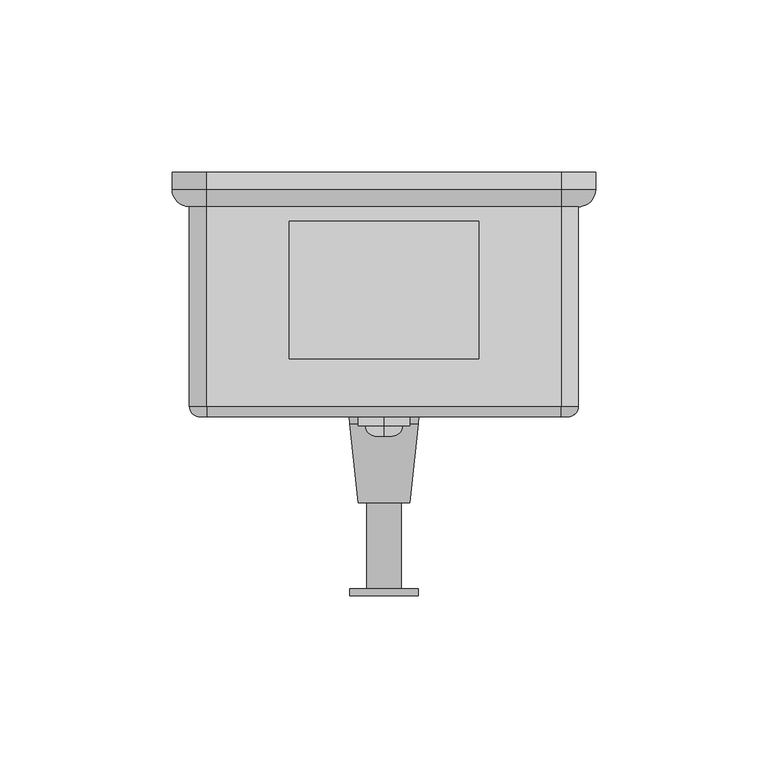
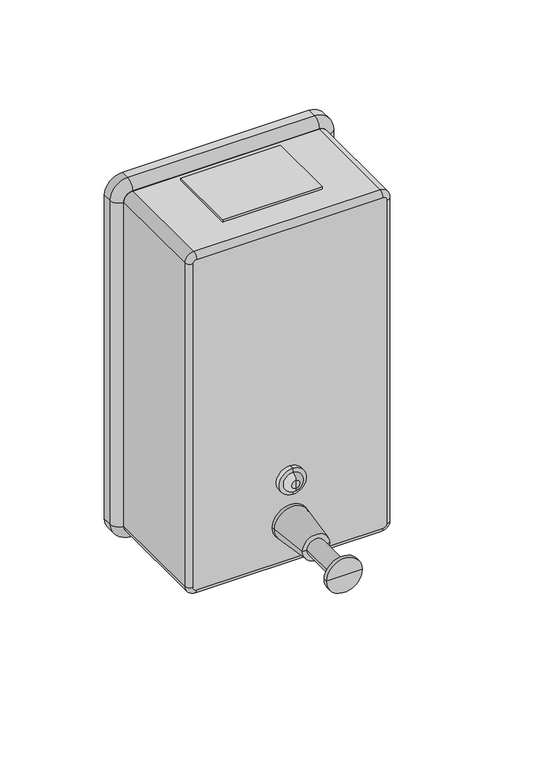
"""IFC4 building model written with IfcOpenShell, lengths in millimetres: proxy geometry, Soap Dispenser_Metlam_Rectangular_Vertical_Pump : 123w x 123d x 209h (ML605AS_N)."""

from ifc_helpers import new_model, si_unit, point, frame, frame_2d, origin, place, context, project, spatial, polyline, circle_curve, ellipse_curve, trimmed, segment, composite_curve, outline, extrude, source, transform, mapped, element, save
from ifc_brep_helpers import plane_surface, cylinder_surface, revolved_surface, advanced_brep


def specialty_equipment_077ba308(model_context):
    return source(origin(), model_context, "Body", "SolidModel", [
        advanced_brep(
        [(0.0, -73.6793404, 1349.641687), (0.0, -73.6793404, 1360.358313), (0.0, -73.6793404, 1362.5184821), (0.0, -73.6793404, 1347.4815179), (0.0, -76.6166446, 1352.5753466), (0.0, -76.6166446, 1357.4246534), (0.0, -76.6166446, 1355.0), (0.0, -71.0, 1347.4815179), (0.0, -71.0, 1362.5184821), (0.0, -71.0, 1355.0)],
        [
            (0, 1, circle_curve(frame((0.0, -73.6793404, 1355.0), z_axis=(0.0, 1.0, 0.0), x_axis=(0.0, 0.0, 1.0)), 5.358313)),
            (1, 2),
            (2, 3, circle_curve(frame((0.0, -73.6793404, 1355.0), z_axis=(0.0, -1.0, 0.0), x_axis=(0.0, 0.0, 1.0)), 7.5184821)),
            (3, 0),
            (1, 0, circle_curve(frame((0.0, -73.6793404, 1355.0), z_axis=(0.0, 1.0, 0.0), x_axis=(0.0, 0.0, 1.0)), 5.358313)),
            (3, 2, circle_curve(frame((0.0, -73.6793404, 1355.0), z_axis=(0.0, -1.0, 0.0), x_axis=(0.0, 0.0, 1.0)), 7.5184821)),
            (4, 5, circle_curve(frame((0.0, -76.6166446, 1355.0), z_axis=(0.0, 1.0, 0.0), x_axis=(0.0, 0.0, 1.0)), 2.4246534)),
            (5, 1, circle_curve(frame((0.0, -73.6829827, 1357.4246534), z_axis=(-1.0, 0.0, 0.0), x_axis=(0.0, 1.0, 0.0)), 2.9336619)),
            (0, 4, circle_curve(frame((0.0, -73.6829827, 1352.5753466), z_axis=(-1.0, 0.0, 0.0), x_axis=(0.0, 1.0, 0.0)), 2.9336619)),
            (5, 4, circle_curve(frame((0.0, -76.6166446, 1355.0), z_axis=(0.0, 1.0, 0.0), x_axis=(0.0, 0.0, 1.0)), 2.4246534)),
            (6, 5),
            (4, 6),
            (7, 8, circle_curve(frame((0.0, -71.0, 1355.0), z_axis=(0.0, 1.0, 0.0), x_axis=(0.0, 0.0, 1.0)), 7.5184821)),
            (8, 9),
            (9, 7),
            (8, 7, circle_curve(frame((0.0, -71.0, 1355.0), z_axis=(0.0, 1.0, 0.0), x_axis=(0.0, 0.0, 1.0)), 7.5184821)),
            (2, 8),
            (7, 3),
        ],
        [
            plane_surface(frame((0.0, -73.6793404, 1355.0), z_axis=(0.0, -1.0, 0.0), x_axis=(0.0, 0.0, 1.0))),
            revolved_surface(trimmed(ellipse_curve(frame((0.0, -73.6829827, 1357.4246534), z_axis=(1.0, 0.0, 0.0), x_axis=(0.0, 1.0, 0.0)), 2.9336619, 2.9336619), [point((0.0, -73.6793404, 1360.358313))], [point((0.0, -76.6166446, 1357.4246534))], True, "CARTESIAN"), (0.0, -61.3992476, 1355.0), (0.0, -1.0, 0.0)),
            plane_surface(frame((0.0, -76.6166446, 1355.0), z_axis=(0.0, -1.0, 0.0), x_axis=(0.0, 0.0, 1.0))),
            plane_surface(frame((0.0, -71.0, 1355.0), z_axis=(0.0, 1.0, 0.0), x_axis=(0.0, 0.0, 1.0))),
            cylinder_surface(frame((0.0, -61.3992476, 1355.0), z_axis=(0.0, -1.0, 0.0), x_axis=(0.0, 0.0, 1.0)), 7.5184821),
        ],
        [
            (0, [[1, 2, 3, 4]]),
            (0, [[5, -4, 6, -2]]),
            (1, [[7, 8, -1, 9]]),
            (1, [[10, -9, -5, -8]]),
            (2, [[11, -7, 12]]),
            (2, [[-12, -10, -11]]),
            (3, [[13, 14, 15]]),
            (3, [[16, -15, -14]]),
            (4, [[-3, 17, -13, 18]]),
            (4, [[-6, -18, -16, -17]]),
        ],
    ),
        advanced_brep(
        [(53.5, -71.0, 1499.0), (51.5, -71.0, 1501.0), (-51.5, -71.0, 1501.0), (-53.5, -71.0, 1499.0), (-53.5, -71.0, 1310.0), (-51.5, -71.0, 1308.0), (51.5, -71.0, 1308.0), (53.5, -71.0, 1310.0), (51.5, -61.0, 1501.0), (53.5, -61.0, 1499.0), (53.5, -61.0, 1310.0), (51.5, -61.0, 1308.0), (-51.5, -61.0, 1308.0), (-53.5, -61.0, 1310.0), (-53.5, -61.0, 1499.0), (-51.5, -61.0, 1501.0), (56.5, -10.0, 1499.0), (56.5, -68.0, 1499.0), (56.5, -68.0, 1310.0), (56.5, -10.0, 1310.0), (51.5, -10.0, 1305.0), (51.5, -68.0, 1305.0), (-51.5, -68.0, 1305.0), (-51.5, -10.0, 1305.0), (-56.5, -10.0, 1310.0), (-56.5, -68.0, 1310.0), (-56.5, -68.0, 1499.0), (-56.5, -10.0, 1499.0), (-51.5, -10.0, 1504.0), (-51.5, -68.0, 1504.0), (51.5, -68.0, 1504.0), (51.5, -10.0, 1504.0), (-51.5, -10.0, 1501.0), (-53.5, -10.0, 1499.0), (-53.5, -10.0, 1310.0), (-51.5, -10.0, 1308.0), (51.5, -10.0, 1308.0), (53.5, -10.0, 1310.0), (53.5, -10.0, 1499.0), (51.5, -10.0, 1501.0)],
        [
            (0, 1, circle_curve(frame((51.5, -71.0, 1499.0), z_axis=(0.0, -1.0, 0.0), x_axis=(0.0, 0.0, 1.0)), 2.0)),
            (1, 2),
            (2, 3, circle_curve(frame((-51.5, -71.0, 1499.0), z_axis=(0.0, -1.0, 0.0), x_axis=(-1.0, 0.0, 0.0)), 2.0)),
            (3, 4),
            (4, 5, circle_curve(frame((-51.5, -71.0, 1310.0), z_axis=(0.0, -1.0, 0.0), x_axis=(0.0, 0.0, -1.0)), 2.0)),
            (5, 6),
            (6, 7, circle_curve(frame((51.5, -71.0, 1310.0), z_axis=(0.0, -1.0, 0.0), x_axis=(1.0, 0.0, 0.0)), 2.0)),
            (7, 0),
            (8, 9, circle_curve(frame((51.5, -61.0, 1499.0), z_axis=(0.0, 1.0, 0.0), x_axis=(0.0, 0.0, 1.0)), 2.0)),
            (9, 10),
            (10, 11, circle_curve(frame((51.5, -61.0, 1310.0), z_axis=(0.0, 1.0, 0.0), x_axis=(1.0, 0.0, 0.0)), 2.0)),
            (11, 12),
            (12, 13, circle_curve(frame((-51.5, -61.0, 1310.0), z_axis=(0.0, 1.0, 0.0), x_axis=(0.0, 0.0, -1.0)), 2.0)),
            (13, 14),
            (14, 15, circle_curve(frame((-51.5, -61.0, 1499.0), z_axis=(0.0, 1.0, 0.0), x_axis=(-1.0, 0.0, 0.0)), 2.0)),
            (15, 8),
            (16, 17),
            (17, 18),
            (18, 19),
            (19, 16),
            (20, 21),
            (21, 22),
            (22, 23),
            (23, 20),
            (24, 25),
            (25, 26),
            (26, 27),
            (27, 24),
            (28, 29),
            (29, 30),
            (30, 31),
            (31, 28),
            (16, 31, circle_curve(frame((51.5, -10.0, 1499.0), z_axis=(0.0, -1.0, 0.0), x_axis=(0.0, 0.0, 1.0)), 5.0)),
            (30, 17, circle_curve(frame((51.5, -68.0, 1499.0), z_axis=(0.0, 1.0, 0.0), x_axis=(0.0, 0.0, 1.0)), 5.0)),
            (18, 21, circle_curve(frame((51.5, -68.0, 1310.0), z_axis=(0.0, 1.0, 0.0), x_axis=(1.0, 0.0, 0.0)), 5.0)),
            (20, 19, circle_curve(frame((51.5, -10.0, 1310.0), z_axis=(0.0, -1.0, 0.0), x_axis=(1.0, 0.0, 0.0)), 5.0)),
            (22, 25, circle_curve(frame((-51.5, -68.0, 1310.0), z_axis=(0.0, 1.0, 0.0), x_axis=(0.0, 0.0, -1.0)), 5.0)),
            (24, 23, circle_curve(frame((-51.5, -10.0, 1310.0), z_axis=(0.0, -1.0, 0.0), x_axis=(0.0, 0.0, -1.0)), 5.0)),
            (26, 29, circle_curve(frame((-51.5, -68.0, 1499.0), z_axis=(0.0, 1.0, 0.0), x_axis=(-1.0, 0.0, 0.0)), 5.0)),
            (28, 27, circle_curve(frame((-51.5, -10.0, 1499.0), z_axis=(0.0, -1.0, 0.0), x_axis=(-1.0, 0.0, 0.0)), 5.0)),
            (32, 33, circle_curve(frame((-51.5, -10.0, 1499.0), z_axis=(0.0, -1.0, 0.0), x_axis=(-1.0, 0.0, 0.0)), 2.0)),
            (33, 34),
            (34, 35, circle_curve(frame((-51.5, -10.0, 1310.0), z_axis=(0.0, -1.0, 0.0), x_axis=(0.0, 0.0, -1.0)), 2.0)),
            (35, 36),
            (36, 37, circle_curve(frame((51.5, -10.0, 1310.0), z_axis=(0.0, -1.0, 0.0), x_axis=(1.0, 0.0, 0.0)), 2.0)),
            (37, 38),
            (38, 39, circle_curve(frame((51.5, -10.0, 1499.0), z_axis=(0.0, -1.0, 0.0), x_axis=(0.0, 0.0, 1.0)), 2.0)),
            (39, 32),
            (38, 9),
            (8, 39),
            (30, 1, circle_curve(frame((51.5, -68.0, 1501.0), z_axis=(1.0, 0.0, 0.0), x_axis=(0.0, 0.0, 1.0)), 3.0)),
            (0, 17, circle_curve(frame((53.5, -68.0, 1499.0), z_axis=(0.0, 0.0, 1.0), x_axis=(1.0, 0.0, 0.0)), 3.0)),
            (37, 10),
            (7, 18, circle_curve(frame((53.5, -68.0, 1310.0), z_axis=(0.0, 0.0, 1.0), x_axis=(1.0, 0.0, 0.0)), 3.0)),
            (36, 11),
            (6, 21, circle_curve(frame((51.5, -68.0, 1308.0), z_axis=(1.0, 0.0, 0.0), x_axis=(0.0, 0.0, -1.0)), 3.0)),
            (35, 12),
            (5, 22, circle_curve(frame((-51.5, -68.0, 1308.0), z_axis=(1.0, 0.0, 0.0), x_axis=(0.0, 0.0, -1.0)), 3.0)),
            (34, 13),
            (4, 25, circle_curve(frame((-53.5, -68.0, 1310.0), z_axis=(0.0, 0.0, -1.0), x_axis=(-1.0, 0.0, 0.0)), 3.0)),
            (33, 14),
            (3, 26, circle_curve(frame((-53.5, -68.0, 1499.0), z_axis=(0.0, 0.0, -1.0), x_axis=(-1.0, 0.0, 0.0)), 3.0)),
            (32, 15),
            (2, 29, circle_curve(frame((-51.5, -68.0, 1501.0), z_axis=(-1.0, 0.0, 0.0), x_axis=(0.0, 0.0, 1.0)), 3.0)),
        ],
        [
            plane_surface(frame((-49.5, -71.0, 1499.0), z_axis=(0.0, -1.0, 0.0), x_axis=(0.0, 0.0, 1.0))),
            plane_surface(frame((-49.5, -61.0, 1499.0), z_axis=(0.0, 1.0, 0.0), x_axis=(0.0, 0.0, -1.0))),
            plane_surface(frame((56.5, -68.0, 1499.0), z_axis=(1.0, 0.0, 0.0), x_axis=(0.0, 0.0, -1.0))),
            plane_surface(frame((51.5, -68.0, 1305.0), z_axis=(0.0, 0.0, -1.0), x_axis=(-1.0, 0.0, 0.0))),
            plane_surface(frame((-56.5, -68.0, 1310.0), z_axis=(-1.0, 0.0, 0.0), x_axis=(0.0, 0.0, 1.0))),
            plane_surface(frame((-51.5, -68.0, 1504.0), z_axis=(0.0, 0.0, 1.0), x_axis=(1.0, 0.0, 0.0))),
            cylinder_surface(frame((51.5, -10.0, 1499.0), z_axis=(0.0, 1.0, 0.0), x_axis=(0.0, 0.0, 1.0)), 5.0),
            cylinder_surface(frame((51.5, -10.0, 1310.0), z_axis=(0.0, 1.0, 0.0), x_axis=(1.0, 0.0, 0.0)), 5.0),
            cylinder_surface(frame((-51.5, -10.0, 1310.0), z_axis=(0.0, 1.0, 0.0), x_axis=(0.0, 0.0, -1.0)), 5.0),
            cylinder_surface(frame((-51.5, -10.0, 1499.0), z_axis=(0.0, 1.0, 0.0), x_axis=(-1.0, 0.0, 0.0)), 5.0),
            plane_surface(frame((-51.5, -10.0, 1499.0), z_axis=(0.0, 1.0, 0.0), x_axis=(-1.0, 0.0, 0.0))),
            revolved_surface(polyline([(51.5, -10.0, 1501.0), (51.5, -61.0, 1501.0)]), (51.5, -10.0, 1499.0), (0.0, 1.0, 0.0)),
            revolved_surface(trimmed(ellipse_curve(frame((51.5, -68.0, 1501.0), z_axis=(-1.0, 0.0, 0.0), x_axis=(0.0, 0.0, 1.0)), 3.0, 3.0), [point((51.5, -71.0, 1501.0))], [point((51.5, -68.0, 1504.0))], True, "CARTESIAN"), (51.5, -10.0, 1499.0), (0.0, 1.0, 0.0)),
            plane_surface(frame((53.5, -10.0, 1499.0), z_axis=(-1.0, 0.0, 0.0), x_axis=(0.0, 0.0, -1.0))),
            cylinder_surface(frame((53.5, -68.0, 1499.0), z_axis=(0.0, 0.0, 1.0), x_axis=(1.0, 0.0, 0.0)), 3.0),
            revolved_surface(polyline([(53.5, -10.0, 1310.0), (53.5, -61.0, 1310.0)]), (51.5, -10.0, 1310.0), (0.0, 1.0, 0.0)),
            revolved_surface(trimmed(ellipse_curve(frame((53.5, -68.0, 1310.0), z_axis=(0.0, 0.0, 1.0), x_axis=(1.0, 0.0, 0.0)), 3.0, 3.0), [point((53.5, -71.0, 1310.0))], [point((56.5, -68.0, 1310.0))], True, "CARTESIAN"), (51.5, -10.0, 1310.0), (0.0, 1.0, 0.0)),
            plane_surface(frame((51.5, -10.0, 1308.0), z_axis=(0.0, 0.0, 1.0), x_axis=(-1.0, 0.0, 0.0))),
            cylinder_surface(frame((51.5, -68.0, 1308.0), z_axis=(1.0, 0.0, 0.0), x_axis=(0.0, 0.0, -1.0)), 3.0),
            revolved_surface(polyline([(-51.5, -10.0, 1308.0), (-51.5, -61.0, 1308.0)]), (-51.5, -10.0, 1310.0), (0.0, 1.0, 0.0)),
            revolved_surface(trimmed(ellipse_curve(frame((-51.5, -68.0, 1308.0), z_axis=(1.0, 0.0, 0.0), x_axis=(0.0, 0.0, -1.0)), 3.0, 3.0), [point((-51.5, -71.0, 1308.0))], [point((-51.5, -68.0, 1305.0))], True, "CARTESIAN"), (-51.5, -10.0, 1310.0), (0.0, 1.0, 0.0)),
            plane_surface(frame((-53.5, -10.0, 1310.0), z_axis=(1.0, 0.0, 0.0), x_axis=(0.0, 0.0, 1.0))),
            cylinder_surface(frame((-53.5, -68.0, 1310.0), z_axis=(0.0, 0.0, -1.0), x_axis=(-1.0, 0.0, 0.0)), 3.0),
            revolved_surface(polyline([(-53.5, -10.0, 1499.0), (-53.5, -61.0, 1499.0)]), (-51.5, -10.0, 1499.0), (0.0, 1.0, 0.0)),
            revolved_surface(trimmed(ellipse_curve(frame((-53.5, -68.0, 1499.0), z_axis=(0.0, 0.0, -1.0), x_axis=(-1.0, 0.0, 0.0)), 3.0, 3.0), [point((-53.5, -71.0, 1499.0))], [point((-56.5, -68.0, 1499.0))], True, "CARTESIAN"), (-51.5, -10.0, 1499.0), (0.0, 1.0, 0.0)),
            plane_surface(frame((-51.5, -10.0, 1501.0), z_axis=(0.0, 0.0, -1.0), x_axis=(1.0, 0.0, 0.0))),
            cylinder_surface(frame((-51.5, -68.0, 1501.0), z_axis=(-1.0, 0.0, 0.0), x_axis=(0.0, 0.0, 1.0)), 3.0),
        ],
        [
            (0, [[1, 2, 3, 4, 5, 6, 7, 8]]),
            (1, [[9, 10, 11, 12, 13, 14, 15, 16]]),
            (2, [[17, 18, 19, 20]]),
            (3, [[21, 22, 23, 24]]),
            (4, [[25, 26, 27, 28]]),
            (5, [[29, 30, 31, 32]]),
            (6, [[-17, 33, -31, 34]]),
            (7, [[-19, 35, -21, 36]]),
            (8, [[-23, 37, -25, 38]]),
            (9, [[-27, 39, -29, 40]]),
            (10, [[-20, -36, -24, -38, -28, -40, -32, -33], [41, 42, 43, 44, 45, 46, 47, 48]]),
            (11, [[-47, 49, -9, 50]]),
            (12, [[-34, 51, -1, 52]]),
            (13, [[-46, 53, -10, -49]]),
            (14, [[-18, -52, -8, 54]]),
            (15, [[-45, 55, -11, -53]]),
            (16, [[-35, -54, -7, 56]]),
            (17, [[-44, 57, -12, -55]]),
            (18, [[-22, -56, -6, 58]]),
            (19, [[-43, 59, -13, -57]]),
            (20, [[-37, -58, -5, 60]]),
            (21, [[-42, 61, -14, -59]]),
            (22, [[-26, -60, -4, 62]]),
            (23, [[-41, 63, -15, -61]]),
            (24, [[-39, -62, -3, 64]]),
            (25, [[-48, -50, -16, -63]]),
            (26, [[-30, -64, -2, -51]]),
        ],
    ),
        extrude(outline(composite_curve([segment(trimmed(circle_curve(frame_2d((0.0, -115.1492444)), 2.0), [point((2.0, -115.1492444))], [point((-2.0, -115.1492444))], False, "CARTESIAN"), True, "CONTINUOUS"), segment(trimmed(circle_curve(frame_2d((0.0, -115.1492444)), 2.0), [point((-2.0, -115.1492444))], [point((2.0, -115.1492444))], False, "CARTESIAN"), True, "CONTINUOUS")], self_intersect=False)), frame((0.0, 0.0, 1320.0), z_axis=(0.0, 0.0, 1.0), x_axis=(1.0, 0.0, 0.0)), (0.0, 0.0, 1.0), 10.0),
        advanced_brep(
        [(0.0, -71.0, 1330.0), (10.1221293, -71.0, 1330.0), (-10.1221293, -71.0, 1330.0), (-10.0, -121.0, 1330.0), (10.0, -121.0, 1330.0), (10.0, -123.0, 1330.0), (-10.0, -123.0, 1330.0), (-5.0, -121.0, 1330.0), (5.0, -121.0, 1330.0), (-5.0, -96.0, 1330.0), (5.0, -96.0, 1330.0), (-7.5, -96.0, 1330.0), (7.5, -96.0, 1330.0), (9.912359, -73.0, 1330.0), (-9.912359, -73.0, 1330.0), (0.0, -123.0, 1330.0)],
        [
            (0, 1),
            (1, 2, circle_curve(frame((0.0, -71.0, 1330.0), z_axis=(0.0, 1.0, 0.0), x_axis=(1.0, 0.0, 0.0)), 10.1221293)),
            (2, 0),
            (2, 1, circle_curve(frame((0.0, -71.0, 1330.0), z_axis=(0.0, 1.0, 0.0), x_axis=(1.0, 0.0, 0.0)), 10.1221293)),
            (3, 4, circle_curve(frame((0.0, -121.0, 1330.0), z_axis=(0.0, -1.0, 0.0), x_axis=(1.0, 0.0, 0.0)), 10.0)),
            (4, 5),
            (5, 6, circle_curve(frame((0.0, -123.0, 1330.0), z_axis=(0.0, 1.0, 0.0), x_axis=(1.0, 0.0, 0.0)), 10.0)),
            (6, 3),
            (4, 3, circle_curve(frame((0.0, -121.0, 1330.0), z_axis=(0.0, -1.0, 0.0), x_axis=(1.0, 0.0, 0.0)), 10.0)),
            (6, 5, circle_curve(frame((0.0, -123.0, 1330.0), z_axis=(0.0, 1.0, 0.0), x_axis=(1.0, 0.0, 0.0)), 10.0)),
            (7, 8, circle_curve(frame((0.0, -121.0, 1330.0), z_axis=(0.0, -1.0, 0.0), x_axis=(1.0, 0.0, 0.0)), 5.0)),
            (8, 4),
            (3, 7),
            (8, 7, circle_curve(frame((0.0, -121.0, 1330.0), z_axis=(0.0, -1.0, 0.0), x_axis=(1.0, 0.0, 0.0)), 5.0)),
            (9, 10, circle_curve(frame((0.0, -96.0, 1330.0), z_axis=(0.0, -1.0, 0.0), x_axis=(1.0, 0.0, 0.0)), 5.0)),
            (10, 8),
            (7, 9),
            (10, 9, circle_curve(frame((0.0, -96.0, 1330.0), z_axis=(0.0, -1.0, 0.0), x_axis=(1.0, 0.0, 0.0)), 5.0)),
            (11, 12, circle_curve(frame((0.0, -96.0, 1330.0), z_axis=(0.0, -1.0, 0.0), x_axis=(1.0, 0.0, 0.0)), 7.5)),
            (12, 10),
            (9, 11),
            (12, 11, circle_curve(frame((0.0, -96.0, 1330.0), z_axis=(0.0, -1.0, 0.0), x_axis=(1.0, 0.0, 0.0)), 7.5)),
            (1, 13),
            (13, 14, circle_curve(frame((0.0, -73.0, 1330.0), z_axis=(0.0, 1.0, 0.0), x_axis=(1.0, 0.0, 0.0)), 9.912359)),
            (14, 2),
            (14, 13, circle_curve(frame((0.0, -73.0, 1330.0), z_axis=(0.0, 1.0, 0.0), x_axis=(1.0, 0.0, 0.0)), 9.912359)),
            (13, 12),
            (11, 14),
            (5, 15),
            (15, 6),
        ],
        [
            plane_surface(frame((0.0, -71.0, 1330.0), z_axis=(0.0, 1.0, 0.0), x_axis=(1.0, 0.0, 0.0))),
            cylinder_surface(frame((0.0, -72.8220307, 1330.0), z_axis=(0.0, 1.0, 0.0), x_axis=(1.0, 0.0, 0.0)), 10.0),
            plane_surface(frame((0.0, -121.0, 1330.0), z_axis=(0.0, 1.0, 0.0), x_axis=(1.0, 0.0, 0.0))),
            cylinder_surface(frame((0.0, -72.8220307, 1330.0), z_axis=(0.0, 1.0, 0.0), x_axis=(1.0, 0.0, 0.0)), 5.0),
            plane_surface(frame((0.0, -96.0, 1330.0), z_axis=(0.0, -1.0, 0.0), x_axis=(1.0, 0.0, 0.0))),
            revolved_surface(polyline([(9.912359, -73.0, 1330.0), (10.1221293, -71.0, 1330.0)]), (0.0, -72.8220307, 1330.0), (0.0, 1.0, 0.0)),
            revolved_surface(polyline([(7.5, -96.0, 1330.0), (9.912359, -73.0, 1330.0)]), (0.0, -72.8220307, 1330.0), (0.0, 1.0, 0.0)),
            plane_surface(frame((0.0, -123.0, 1330.0), z_axis=(0.0, -1.0, 0.0), x_axis=(1.0, 0.0, 0.0))),
        ],
        [
            (0, [[1, 2, 3]]),
            (0, [[-3, 4, -1]]),
            (1, [[5, 6, 7, 8]]),
            (1, [[9, -8, 10, -6]]),
            (2, [[11, 12, -5, 13]]),
            (2, [[14, -13, -9, -12]]),
            (3, [[15, 16, -11, 17]]),
            (3, [[18, -17, -14, -16]]),
            (4, [[19, 20, -15, 21]]),
            (4, [[22, -21, -18, -20]]),
            (5, [[-2, 23, 24, 25]]),
            (5, [[-4, -25, 26, -23]]),
            (6, [[-24, 27, -19, 28]]),
            (6, [[-26, -28, -22, -27]]),
            (7, [[-7, 29, 30]]),
            (7, [[-10, -30, -29]]),
        ],
    ),
        extrude(outline(composite_curve([segment(trimmed(circle_curve(frame_2d((1499.0, 51.5)), 5.0), [point((1499.0, 56.5))], [point((1504.0, 51.5))], False, "CARTESIAN"), True, "CONTINUOUS"), segment(polyline([(1504.0, 51.5), (1504.0, -51.5)]), True, "CONTINUOUS"), segment(trimmed(circle_curve(frame_2d((1499.0, -51.5)), 5.0), [point((1504.0, -51.5))], [point((1499.0, -56.5))], False, "CARTESIAN"), True, "CONTINUOUS"), segment(polyline([(1499.0, -56.5), (1310.0, -56.5)]), True, "CONTINUOUS"), segment(trimmed(circle_curve(frame_2d((1310.0, -51.5)), 5.0), [point((1310.0, -56.5))], [point((1305.0, -51.5))], False, "CARTESIAN"), True, "CONTINUOUS"), segment(polyline([(1305.0, -51.5), (1305.0, 51.5)]), True, "CONTINUOUS"), segment(trimmed(circle_curve(frame_2d((1310.0, 51.5)), 5.0), [point((1305.0, 51.5))], [point((1310.0, 56.5))], False, "CARTESIAN"), True, "CONTINUOUS"), segment(polyline([(1310.0, 56.5), (1499.0, 56.5)]), True, "CONTINUOUS")], self_intersect=False)), frame((0.0, -10.0, 0.0), z_axis=(0.0, 1.0, 0.0), x_axis=(0.0, 0.0, 1.0)), (0.0, 0.0, 1.0), 10.0),
        advanced_brep(
        [(61.5, 0.0, 1499.0), (61.5, -5.0, 1499.0), (61.5, -5.0, 1310.0), (61.5, 0.0, 1310.0), (56.5, -10.0, 1499.0), (56.5, 0.0, 1499.0), (56.5, 0.0, 1310.0), (56.5, -10.0, 1310.0), (51.5, 0.0, 1300.0), (51.5, -5.0, 1300.0), (-51.5, -5.0, 1300.0), (-51.5, 0.0, 1300.0), (51.5, -10.0, 1305.0), (51.5, 0.0, 1305.0), (-51.5, 0.0, 1305.0), (-51.5, -10.0, 1305.0), (-61.5, 0.0, 1310.0), (-61.5, -5.0, 1310.0), (-61.5, -5.0, 1499.0), (-61.5, 0.0, 1499.0), (-56.5, -10.0, 1310.0), (-56.5, 0.0, 1310.0), (-56.5, 0.0, 1499.0), (-56.5, -10.0, 1499.0), (-51.5, 0.0, 1509.0), (-51.5, -5.0, 1509.0), (51.5, -5.0, 1509.0), (51.5, 0.0, 1509.0), (-51.5, -10.0, 1504.0), (-51.5, 0.0, 1504.0), (51.5, 0.0, 1504.0), (51.5, -10.0, 1504.0)],
        [
            (0, 1),
            (1, 2),
            (2, 3),
            (3, 0),
            (4, 5),
            (5, 6),
            (6, 7),
            (7, 4),
            (1, 4, circle_curve(frame((56.5, -5.0, 1499.0), z_axis=(0.0, 0.0, -1.0), x_axis=(1.0, 0.0, 0.0)), 5.0)),
            (7, 2, circle_curve(frame((56.5, -5.0, 1310.0), z_axis=(0.0, 0.0, 1.0), x_axis=(1.0, 0.0, 0.0)), 5.0)),
            (8, 9),
            (9, 10),
            (10, 11),
            (11, 8),
            (12, 13),
            (13, 14),
            (14, 15),
            (15, 12),
            (9, 12, circle_curve(frame((51.5, -5.0, 1305.0), z_axis=(-1.0, 0.0, 0.0), x_axis=(0.0, 0.0, -1.0)), 5.0)),
            (15, 10, circle_curve(frame((-51.5, -5.0, 1305.0), z_axis=(1.0, 0.0, 0.0), x_axis=(0.0, 0.0, -1.0)), 5.0)),
            (16, 17),
            (17, 18),
            (18, 19),
            (19, 16),
            (20, 21),
            (21, 22),
            (22, 23),
            (23, 20),
            (17, 20, circle_curve(frame((-56.5, -5.0, 1310.0), z_axis=(0.0, 0.0, 1.0), x_axis=(-1.0, 0.0, 0.0)), 5.0)),
            (23, 18, circle_curve(frame((-56.5, -5.0, 1499.0), z_axis=(0.0, 0.0, -1.0), x_axis=(-1.0, 0.0, 0.0)), 5.0)),
            (24, 25),
            (25, 26),
            (26, 27),
            (27, 24),
            (28, 29),
            (29, 30),
            (30, 31),
            (31, 28),
            (25, 28, circle_curve(frame((-51.5, -5.0, 1504.0), z_axis=(1.0, 0.0, 0.0), x_axis=(0.0, 0.0, 1.0)), 5.0)),
            (31, 26, circle_curve(frame((51.5, -5.0, 1504.0), z_axis=(-1.0, 0.0, 0.0), x_axis=(0.0, 0.0, 1.0)), 5.0)),
            (0, 27, circle_curve(frame((51.5, 0.0, 1499.0), z_axis=(0.0, -1.0, 0.0), x_axis=(0.0, 0.0, 1.0)), 10.0)),
            (26, 1, circle_curve(frame((51.5, -5.0, 1499.0), z_axis=(0.0, 1.0, 0.0), x_axis=(0.0, 0.0, 1.0)), 10.0)),
            (4, 31, circle_curve(frame((51.5, -10.0, 1499.0), z_axis=(0.0, -1.0, 0.0), x_axis=(0.0, 0.0, 1.0)), 5.0)),
            (30, 5, circle_curve(frame((51.5, 0.0, 1499.0), z_axis=(0.0, 1.0, 0.0), x_axis=(0.0, 0.0, 1.0)), 5.0)),
            (8, 3, circle_curve(frame((51.5, 0.0, 1310.0), z_axis=(0.0, -1.0, 0.0), x_axis=(1.0, 0.0, 0.0)), 10.0)),
            (2, 9, circle_curve(frame((51.5, -5.0, 1310.0), z_axis=(0.0, 1.0, 0.0), x_axis=(1.0, 0.0, 0.0)), 10.0)),
            (12, 7, circle_curve(frame((51.5, -10.0, 1310.0), z_axis=(0.0, -1.0, 0.0), x_axis=(1.0, 0.0, 0.0)), 5.0)),
            (6, 13, circle_curve(frame((51.5, 0.0, 1310.0), z_axis=(0.0, 1.0, 0.0), x_axis=(1.0, 0.0, 0.0)), 5.0)),
            (16, 11, circle_curve(frame((-51.5, 0.0, 1310.0), z_axis=(0.0, -1.0, 0.0), x_axis=(0.0, 0.0, -1.0)), 10.0)),
            (10, 17, circle_curve(frame((-51.5, -5.0, 1310.0), z_axis=(0.0, 1.0, 0.0), x_axis=(0.0, 0.0, -1.0)), 10.0)),
            (20, 15, circle_curve(frame((-51.5, -10.0, 1310.0), z_axis=(0.0, -1.0, 0.0), x_axis=(0.0, 0.0, -1.0)), 5.0)),
            (14, 21, circle_curve(frame((-51.5, 0.0, 1310.0), z_axis=(0.0, 1.0, 0.0), x_axis=(0.0, 0.0, -1.0)), 5.0)),
            (24, 19, circle_curve(frame((-51.5, 0.0, 1499.0), z_axis=(0.0, -1.0, 0.0), x_axis=(-1.0, 0.0, 0.0)), 10.0)),
            (18, 25, circle_curve(frame((-51.5, -5.0, 1499.0), z_axis=(0.0, 1.0, 0.0), x_axis=(-1.0, 0.0, 0.0)), 10.0)),
            (29, 22, circle_curve(frame((-51.5, 0.0, 1499.0), z_axis=(0.0, -1.0, 0.0), x_axis=(-1.0, 0.0, 0.0)), 5.0)),
            (28, 23, circle_curve(frame((-51.5, -10.0, 1499.0), z_axis=(0.0, -1.0, 0.0), x_axis=(-1.0, 0.0, 0.0)), 5.0)),
        ],
        [
            plane_surface(frame((61.5, -5.0, 1499.0), z_axis=(1.0, 0.0, 0.0), x_axis=(0.0, 0.0, -1.0))),
            plane_surface(frame((56.5, 0.0, 1499.0), z_axis=(-1.0, 0.0, 0.0), x_axis=(0.0, 0.0, -1.0))),
            cylinder_surface(frame((56.5, -5.0, 1499.0), z_axis=(0.0, 0.0, 1.0), x_axis=(1.0, 0.0, 0.0)), 5.0),
            plane_surface(frame((51.5, -5.0, 1300.0), z_axis=(0.0, 0.0, -1.0), x_axis=(-1.0, 0.0, 0.0))),
            plane_surface(frame((51.5, 0.0, 1305.0), z_axis=(0.0, 0.0, 1.0), x_axis=(-1.0, 0.0, 0.0))),
            cylinder_surface(frame((51.5, -5.0, 1305.0), z_axis=(1.0, 0.0, 0.0), x_axis=(0.0, 0.0, -1.0)), 5.0),
            plane_surface(frame((-61.5, -5.0, 1310.0), z_axis=(-1.0, 0.0, 0.0), x_axis=(0.0, 0.0, 1.0))),
            plane_surface(frame((-56.5, 0.0, 1310.0), z_axis=(1.0, 0.0, 0.0), x_axis=(0.0, 0.0, 1.0))),
            cylinder_surface(frame((-56.5, -5.0, 1310.0), z_axis=(0.0, 0.0, -1.0), x_axis=(-1.0, 0.0, 0.0)), 5.0),
            plane_surface(frame((-51.5, -5.0, 1509.0), z_axis=(0.0, 0.0, 1.0), x_axis=(1.0, 0.0, 0.0))),
            plane_surface(frame((-51.5, 0.0, 1504.0), z_axis=(0.0, 0.0, -1.0), x_axis=(1.0, 0.0, 0.0))),
            cylinder_surface(frame((-51.5, -5.0, 1504.0), z_axis=(-1.0, 0.0, 0.0), x_axis=(0.0, 0.0, 1.0)), 5.0),
            cylinder_surface(frame((51.5, 0.0, 1499.0), z_axis=(0.0, 1.0, 0.0), x_axis=(0.0, 0.0, 1.0)), 10.0),
            revolved_surface(polyline([(51.5, 0.0, 1504.0), (51.5, -10.0, 1504.0)]), (51.5, 0.0, 1499.0), (0.0, 1.0, 0.0)),
            revolved_surface(trimmed(ellipse_curve(frame((51.5, -5.0, 1504.0), z_axis=(-1.0, 0.0, 0.0), x_axis=(0.0, 0.0, 1.0)), 5.0, 5.0), [point((51.5, -10.0, 1504.0))], [point((51.5, -5.0, 1509.0))], True, "CARTESIAN"), (51.5, 0.0, 1499.0), (0.0, 1.0, 0.0)),
            cylinder_surface(frame((51.5, 0.0, 1310.0), z_axis=(0.0, 1.0, 0.0), x_axis=(1.0, 0.0, 0.0)), 10.0),
            revolved_surface(polyline([(56.5, 0.0, 1310.0), (56.5, -10.0, 1310.0)]), (51.5, 0.0, 1310.0), (0.0, 1.0, 0.0)),
            revolved_surface(trimmed(ellipse_curve(frame((56.5, -5.0, 1310.0), z_axis=(0.0, 0.0, 1.0), x_axis=(1.0, 0.0, 0.0)), 5.0, 5.0), [point((56.5, -10.0, 1310.0))], [point((61.5, -5.0, 1310.0))], True, "CARTESIAN"), (51.5, 0.0, 1310.0), (0.0, 1.0, 0.0)),
            cylinder_surface(frame((-51.5, 0.0, 1310.0), z_axis=(0.0, 1.0, 0.0), x_axis=(0.0, 0.0, -1.0)), 10.0),
            revolved_surface(polyline([(-51.5, 0.0, 1305.0), (-51.5, -10.0, 1305.0)]), (-51.5, 0.0, 1310.0), (0.0, 1.0, 0.0)),
            revolved_surface(trimmed(ellipse_curve(frame((-51.5, -5.0, 1305.0), z_axis=(1.0, 0.0, 0.0), x_axis=(0.0, 0.0, -1.0)), 5.0, 5.0), [point((-51.5, -10.0, 1305.0))], [point((-51.5, -5.0, 1300.0))], True, "CARTESIAN"), (-51.5, 0.0, 1310.0), (0.0, 1.0, 0.0)),
            cylinder_surface(frame((-51.5, 0.0, 1499.0), z_axis=(0.0, 1.0, 0.0), x_axis=(-1.0, 0.0, 0.0)), 10.0),
            plane_surface(frame((-51.5, 0.0, 1499.0), z_axis=(0.0, 1.0, 0.0), x_axis=(-1.0, 0.0, 0.0))),
            revolved_surface(polyline([(-56.5, 0.0, 1499.0), (-56.5, -10.0, 1499.0)]), (-51.5, 0.0, 1499.0), (0.0, 1.0, 0.0)),
            revolved_surface(trimmed(ellipse_curve(frame((-56.5, -5.0, 1499.0), z_axis=(0.0, 0.0, -1.0), x_axis=(-1.0, 0.0, 0.0)), 5.0, 5.0), [point((-56.5, -10.0, 1499.0))], [point((-61.5, -5.0, 1499.0))], True, "CARTESIAN"), (-51.5, 0.0, 1499.0), (0.0, 1.0, 0.0)),
        ],
        [
            (0, [[1, 2, 3, 4]]),
            (1, [[5, 6, 7, 8]]),
            (2, [[9, -8, 10, -2]]),
            (3, [[11, 12, 13, 14]]),
            (4, [[15, 16, 17, 18]]),
            (5, [[19, -18, 20, -12]]),
            (6, [[21, 22, 23, 24]]),
            (7, [[25, 26, 27, 28]]),
            (8, [[29, -28, 30, -22]]),
            (9, [[31, 32, 33, 34]]),
            (10, [[35, 36, 37, 38]]),
            (11, [[39, -38, 40, -32]]),
            (12, [[41, -33, 42, -1]]),
            (13, [[43, -37, 44, -5]]),
            (14, [[-42, -40, -43, -9]]),
            (15, [[45, -3, 46, -11]]),
            (16, [[47, -7, 48, -15]]),
            (17, [[-46, -10, -47, -19]]),
            (18, [[49, -13, 50, -21]]),
            (19, [[51, -17, 52, -25]]),
            (20, [[-50, -20, -51, -29]]),
            (21, [[53, -23, 54, -31]]),
            (22, [[-14, -49, -24, -53, -34, -41, -4, -45], [55, -26, -52, -16, -48, -6, -44, -36]]),
            (23, [[56, -27, -55, -35]]),
            (24, [[-54, -30, -56, -39]]),
        ],
    ),
        extrude(outline(polyline([(27.5, -14.1991045), (27.5, -54.1991045), (-27.5, -54.1991045), (-27.5, -14.1991045), (27.5, -14.1991045)])), frame((0.0, 0.0, 1504.0), z_axis=(0.0, 0.0, 1.0), x_axis=(1.0, 0.0, 0.0)), (0.0, 0.0, 1.0), 1.6),
    ])


if __name__ == "__main__":
    model = new_model("IFC4")
    model_context = context("Model", 3, world=origin())
    ifc_project = project(units=[si_unit("LENGTHUNIT", "METRE", prefix="MILLI")], contexts=[model_context])
    site = spatial("IfcSite", under=ifc_project)
    building = spatial("IfcBuilding", under=site)
    placement = place(None, origin())
    specialty_equipment_shape = specialty_equipment_077ba308(model_context)
    element("IfcBuildingElementProxy", 1, Name="Soap Dispenser_Metlam_Rectangular_Vertical_Pump : 123w x 123d x 209h (ML605AS_N)", ObjectType="Soap Dispenser_Metlam_Rectangular_Vertical_Pump : 123w x 123d x 209h (ML605AS_N)", at=placement, inside=building, context=model_context, shape_type="MappedRepresentation", body=[
        mapped(specialty_equipment_shape, transform((0.0, 0.0, 0.0), x_axis=(1.0, 0.0, 0.0), y_axis=(0.0, 1.0, 0.0), z_axis=(0.0, 0.0, 1.0))),
    ])
    save(model, "model.ifc")
